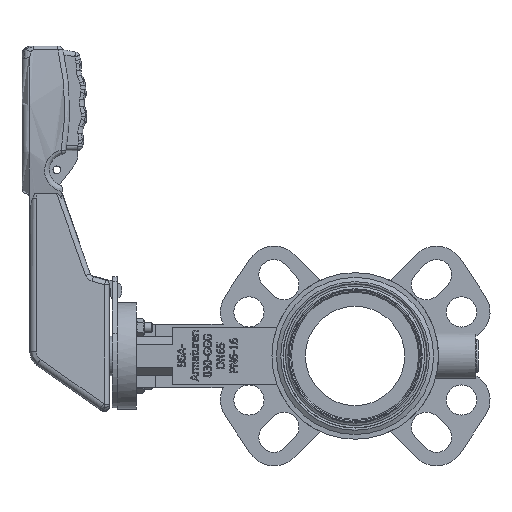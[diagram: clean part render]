
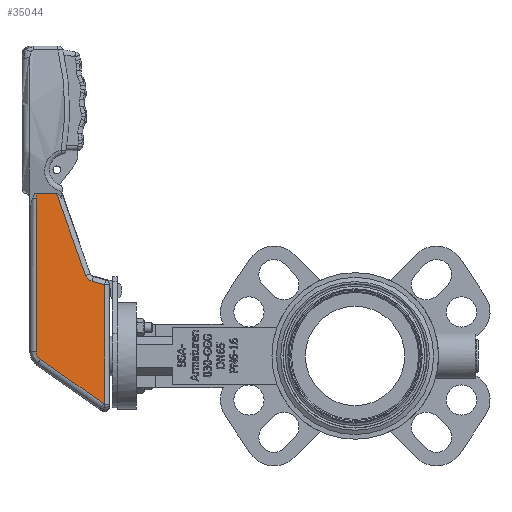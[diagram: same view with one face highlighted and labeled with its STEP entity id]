
A CAD part, left-side view. The second image highlights one B-rep face of the part: STEP entity #35044.
In plain terms, the highlighted planar face has unit normal (-0.999, 0, 0.048).
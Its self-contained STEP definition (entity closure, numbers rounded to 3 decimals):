
#34788=CARTESIAN_POINT('',(-15.,201.342,102.247));
#34789=VERTEX_POINT('',#34788);
#34805=CARTESIAN_POINT('',(-15.,188.082,102.247));
#34806=VERTEX_POINT('',#34805);
#34807=CARTESIAN_POINT('',(-15.,201.342,102.247));
#34808=DIRECTION('',(0.0,-1.0,0.0));
#34809=VECTOR('',#34808,13.26);
#34810=LINE('',#34807,#34809);
#34811=EDGE_CURVE('',#34789,#34806,#34810,.T.);
#34963=CARTESIAN_POINT('',(-20.,209.9,-2.753));
#34964=DIRECTION('',(-0.999,0.,0.048));
#34965=DIRECTION('',(0.0,-1.0,0.0));
#34966=AXIS2_PLACEMENT_3D('',#34963,#34964,#34965);
#34967=PLANE('',#34966);
#34968=CARTESIAN_POINT('',(-21.316,157.9,-30.393));
#34969=VERTEX_POINT('',#34968);
#34970=CARTESIAN_POINT('',(-21.316,157.999,-30.393));
#34971=VERTEX_POINT('',#34970);
#34972=CARTESIAN_POINT('',(-21.316,157.9,-30.393));
#34973=DIRECTION('',(0.0,1.0,0.0));
#34974=VECTOR('',#34973,0.099);
#34975=LINE('',#34972,#34974);
#34976=EDGE_CURVE('',#34969,#34971,#34975,.T.);
#34977=ORIENTED_EDGE('',*,*,#34976,.F.);
#34978=CARTESIAN_POINT('',(-17.731,157.9,44.891));
#34979=VERTEX_POINT('',#34978);
#34980=CARTESIAN_POINT('',(-17.731,157.9,44.891));
#34981=DIRECTION('',(-0.048,0.0,-0.999));
#34982=VECTOR('',#34981,75.37);
#34983=LINE('',#34980,#34982);
#34984=EDGE_CURVE('',#34979,#34969,#34983,.T.);
#34985=ORIENTED_EDGE('',*,*,#34984,.F.);
#34986=CARTESIAN_POINT('',(-17.631,165.743,46.991));
#34987=VERTEX_POINT('',#34986);
#34988=CARTESIAN_POINT('',(-17.631,165.743,46.991));
#34989=DIRECTION('',(-0.012,-0.966,-0.259));
#34990=VECTOR('',#34989,8.119);
#34991=LINE('',#34988,#34990);
#34992=EDGE_CURVE('',#34987,#34979,#34991,.T.);
#34993=ORIENTED_EDGE('',*,*,#34992,.F.);
#34994=CARTESIAN_POINT('',(-17.451,169.846,50.78));
#34995=VERTEX_POINT('',#34994);
#34996=CARTESIAN_POINT('',(-17.356,164.19,52.78));
#34997=DIRECTION('',(-0.999,0.,0.048));
#34998=DIRECTION('',(-0.035,0.679,-0.733));
#34999=AXIS2_PLACEMENT_3D('',#34996,#34997,#34998);
#35000=CIRCLE('',#34999,6.);
#35001=EDGE_CURVE('',#34995,#34987,#35000,.T.);
#35002=ORIENTED_EDGE('',*,*,#35001,.F.);
#35003=CARTESIAN_POINT('',(-15.,188.082,102.247));
#35004=DIRECTION('',(-0.045,-0.334,-0.942));
#35005=VECTOR('',#35004,54.658);
#35006=LINE('',#35003,#35005);
#35007=EDGE_CURVE('',#34806,#34995,#35006,.T.);
#35008=ORIENTED_EDGE('',*,*,#35007,.F.);
#35009=ORIENTED_EDGE('',*,*,#34811,.F.);
#35010=CARTESIAN_POINT('',(-15.13,200.8,99.526));
#35011=VERTEX_POINT('',#35010);
#35012=CARTESIAN_POINT('',(-15.13,200.8,99.526));
#35013=CARTESIAN_POINT('',(-15.085,200.8,100.456));
#35014=CARTESIAN_POINT('',(-15.041,200.986,101.388));
#35015=CARTESIAN_POINT('',(-15.,201.342,102.247));
#35016=B_SPLINE_CURVE_WITH_KNOTS('',3,(#35012,#35013,#35014,#35015),.UNSPECIFIED.,.F.,.U.,(4,4),(-0.993,-0.714),.UNSPECIFIED.);
#35017=EDGE_CURVE('',#35011,#34789,#35016,.T.);
#35018=ORIENTED_EDGE('',*,*,#35017,.F.);
#35019=CARTESIAN_POINT('',(-19.743,200.8,2.648));
#35020=VERTEX_POINT('',#35019);
#35021=CARTESIAN_POINT('',(-19.743,200.8,2.648));
#35022=DIRECTION('',(0.048,0.0,0.999));
#35023=VECTOR('',#35022,96.988);
#35024=LINE('',#35021,#35023);
#35025=EDGE_CURVE('',#35020,#35011,#35024,.T.);
#35026=ORIENTED_EDGE('',*,*,#35025,.F.);
#35027=CARTESIAN_POINT('',(-19.973,198.284,-2.185));
#35028=VERTEX_POINT('',#35027);
#35029=CARTESIAN_POINT('',(-19.743,194.9,2.648));
#35030=DIRECTION('',(0.999,0.,-0.048));
#35031=DIRECTION('',(-0.048,0.,-0.999));
#35032=AXIS2_PLACEMENT_3D('',#35029,#35030,#35031);
#35033=ELLIPSE('',#35032,5.907,5.9);
#35034=EDGE_CURVE('',#35028,#35020,#35033,.T.);
#35035=ORIENTED_EDGE('',*,*,#35034,.F.);
#35036=CARTESIAN_POINT('',(-21.316,157.999,-30.393));
#35037=DIRECTION('',(0.027,0.819,0.573));
#35038=VECTOR('',#35037,49.197);
#35039=LINE('',#35036,#35038);
#35040=EDGE_CURVE('',#34971,#35028,#35039,.T.);
#35041=ORIENTED_EDGE('',*,*,#35040,.F.);
#35042=EDGE_LOOP('',(#34977,#34985,#34993,#35002,#35008,#35009,#35018,#35026,#35035,#35041));
#35043=FACE_OUTER_BOUND('',#35042,.T.);
#35044=ADVANCED_FACE('',(#35043),#34967,.T.);
